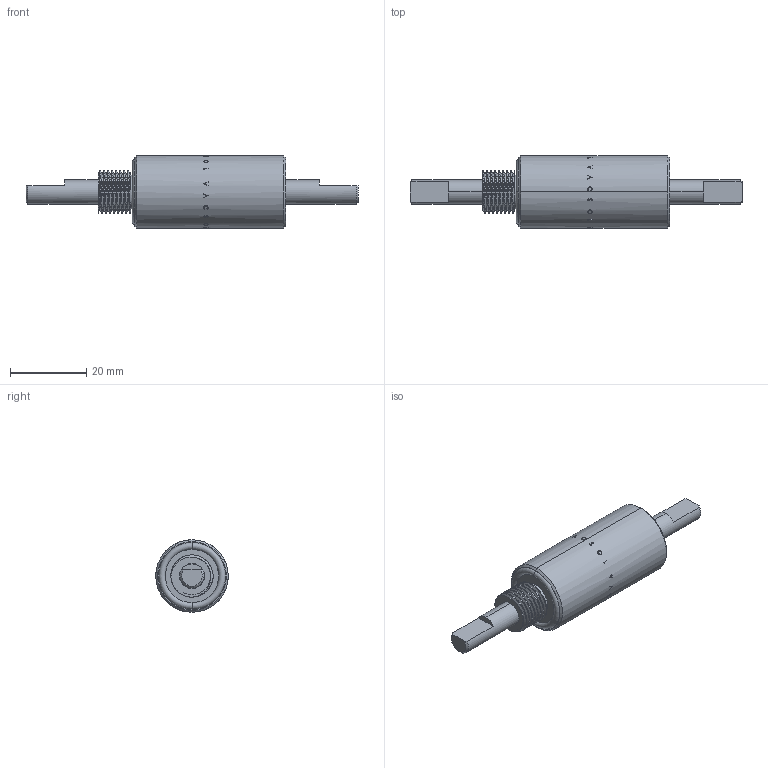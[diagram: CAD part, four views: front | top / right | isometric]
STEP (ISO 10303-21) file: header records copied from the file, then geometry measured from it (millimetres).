
FILE_DESCRIPTION (( 'STEP AP203' ), '1' );
FILE_NAME ('p61020.STEP', '2010-10-11T11:05:16', ( 'user' ), ( '' ), 'SwSTEP 2.0', 'SolidWorks 2007', '' );
FILE_SCHEMA (( 'CONFIG_CONTROL_DESIGN' ));
Length unit declared in the file: millimetre
Products named in the file (1): p61020
Bounding box: 87.3 x 19.05 x 19.05 mm (x, y, z)
Volume: 13171.7 mm3; surface area: 4705.5 mm2
Topology: 2 solids, 2 shells, 281 faces, 732 edges, 485 vertices
Faces by surface type: bspline 179, cylinder 74, plane 17, cone 7, torus 4
Entity records: 16521 total; most frequent: CARTESIAN_POINT 11293, ORIENTED_EDGE 1464, EDGE_CURVE 732, B_SPLINE_CURVE_WITH_KNOTS 542, VERTEX_POINT 485, DIRECTION 389, EDGE_LOOP 313, FACE_OUTER_BOUND 281
